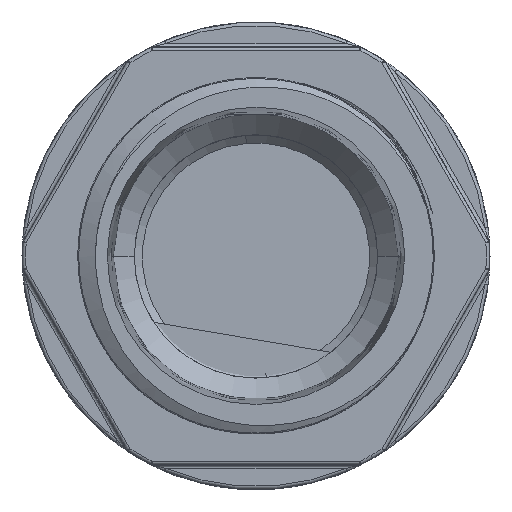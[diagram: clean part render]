
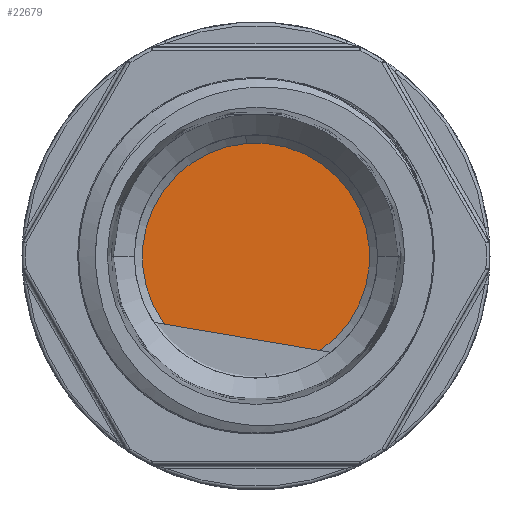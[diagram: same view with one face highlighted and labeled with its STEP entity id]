
A CAD part, top view. The second image highlights one B-rep face of the part: STEP entity #22679.
In plain terms, the highlighted planar face has unit normal (0, 0, 1) as drawn and (0, -1, 0) by its records, which use the part's own axes.
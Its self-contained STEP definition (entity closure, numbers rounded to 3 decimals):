
#370 = CARTESIAN_POINT ( 'NONE',  ( 0., 22.532, 7.06 ) ) ;
#653 = CARTESIAN_POINT ( 'NONE',  ( 0., 22.532, 0. ) ) ;
#5332 = DIRECTION ( 'NONE',  ( 0., 0., 1. ) ) ;
#9263 = DIRECTION ( 'NONE',  ( 0., 0., 1. ) ) ;
#10161 = DIRECTION ( 'NONE',  ( 0., 1., 0. ) ) ;
#10538 = CARTESIAN_POINT ( 'NONE',  ( 0., 22.532, 0. ) ) ;
#12039 = ORIENTED_EDGE ( 'NONE', *, *, #38723, .T. ) ;
#15407 = AXIS2_PLACEMENT_3D ( 'NONE', #653, #10161, #9263 ) ;
#15674 = CIRCLE ( 'NONE', #23493, 7.06 ) ;
#22198 = CARTESIAN_POINT ( 'NONE',  ( 0., 22.532, 0. ) ) ;
#22679 = ADVANCED_FACE ( 'NONE', ( #47313 ), #57159, .F. ) ;
#23493 = AXIS2_PLACEMENT_3D ( 'NONE', #22198, #50442, #40937 ) ;
#31369 = VERTEX_POINT ( 'NONE', #32259 ) ;
#32259 = CARTESIAN_POINT ( 'NONE',  ( 0., 22.532, -7.06 ) ) ;
#38127 = ORIENTED_EDGE ( 'NONE', *, *, #45038, .T. ) ;
#38723 = EDGE_CURVE ( 'NONE', #31369, #46363, #40935, .T. ) ;
#40935 = CIRCLE ( 'NONE', #47818, 7.06 ) ;
#40937 = DIRECTION ( 'NONE',  ( 0., 0., 1. ) ) ;
#45038 = EDGE_CURVE ( 'NONE', #46363, #31369, #15674, .T. ) ;
#46363 = VERTEX_POINT ( 'NONE', #370 ) ;
#47313 = FACE_OUTER_BOUND ( 'NONE', #60591, .T. ) ;
#47818 = AXIS2_PLACEMENT_3D ( 'NONE', #10538, #57826, #5332 ) ;
#50442 = DIRECTION ( 'NONE',  ( 0., -1., 0. ) ) ;
#57159 = PLANE ( 'NONE',  #15407 ) ;
#57826 = DIRECTION ( 'NONE',  ( 0., -1., 0. ) ) ;
#60591 = EDGE_LOOP ( 'NONE', ( #12039, #38127 ) ) ;
